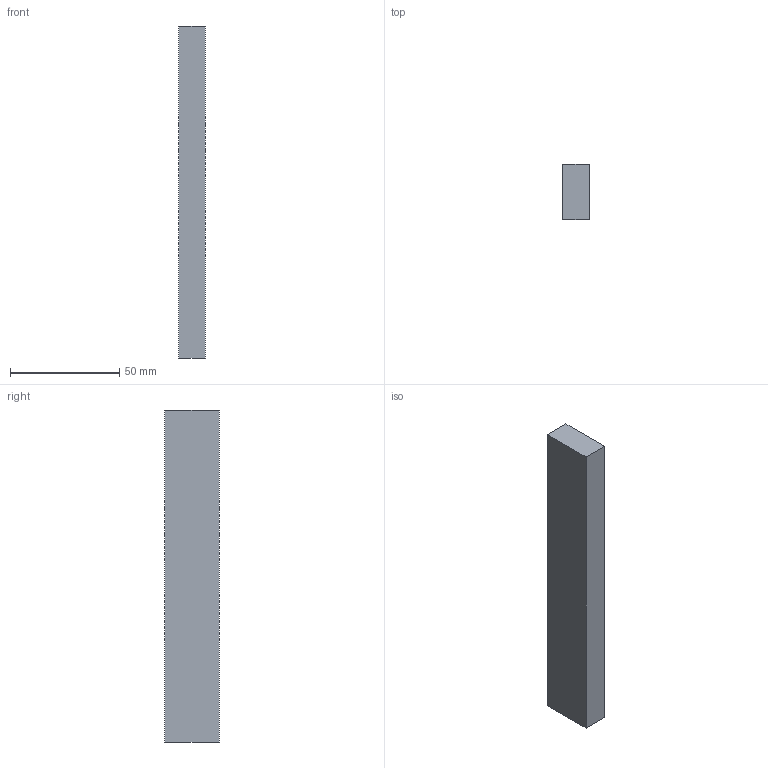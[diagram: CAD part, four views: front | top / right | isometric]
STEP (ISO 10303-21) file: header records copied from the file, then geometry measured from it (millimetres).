
FILE_DESCRIPTION(('Open CASCADE Model'),'2;1');
FILE_NAME('Open CASCADE Shape Model','2026-10-04T01:02:29',('Author'),( 'Open CASCADE'),'Open CASCADE STEP processor 8.0','Open CASCADE 8.0' ,'Unknown');
FILE_SCHEMA(('AUTOMOTIVE_DESIGN { 1 0 10303 214 1 1 1 1 }'));
Length unit declared in the file: millimetre
Products named in the file (1): Open CASCADE STEP translator 8.0 179
Bounding box: 12 x 25 x 152 mm (x, y, z)
Volume: 45600 mm3; surface area: 11848 mm2
Topology: 1 solids, 1 shells, 6 faces, 12 edges, 8 vertices
Faces by surface type: plane 6
Entity records: 322 total; most frequent: CARTESIAN_POINT 51, DIRECTION 50, LINE 36, VECTOR 36, ORIENTED_EDGE 24, PCURVE 24, DEFINITIONAL_REPRESENTATION 24, EDGE_CURVE 12
